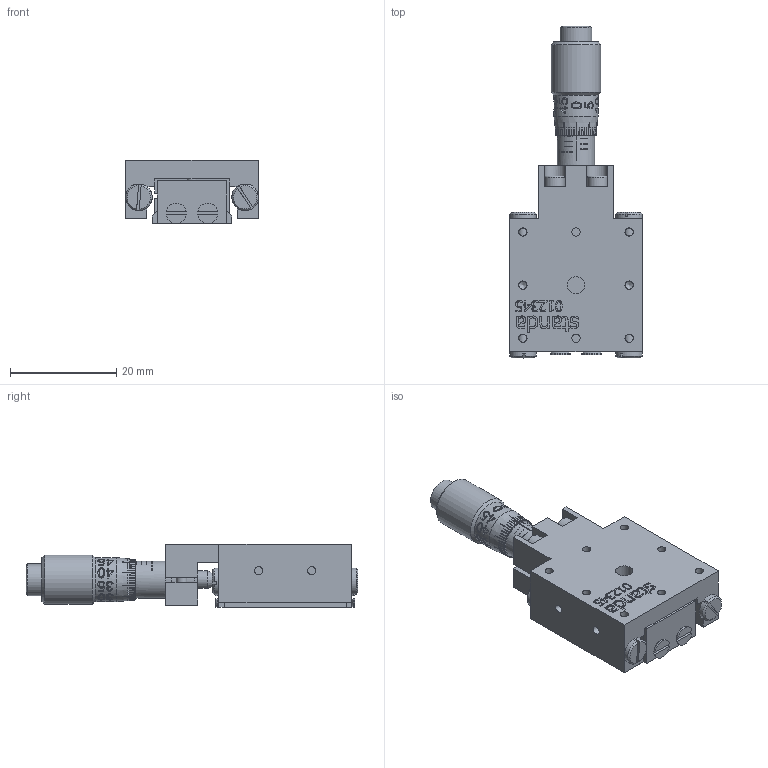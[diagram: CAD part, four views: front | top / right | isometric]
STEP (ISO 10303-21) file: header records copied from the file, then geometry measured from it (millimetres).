
FILE_DESCRIPTION(/* description */ (''),/* implementation_level */ '2;1');
FILE_NAME(/* name */ 'C:\Users\dsgn39\Desktop\Internetui\7T128-9S35-5BL\7T128-9S35-5BL.stp',/* time_stamp */ '2018-02-23T09:44:20+02:00',/* author */ ('dsgn39'),/* organization */ (''),/* preprocessor_version */ 'ST-DEVELOPER v15.2',/* originating_system */ 'Autodesk Inventor 2014',/* authorisation */ '');
FILE_SCHEMA (('AUTOMOTIVE_DESIGN { 1 0 10303 214 3 1 1 }'));
Products named in the file (2): Part6; Assembly3
Bounding box: 25 x 62.51 x 12 mm (x, y, z)
Surface area: 6372.6 mm2
Topology: 8 solids, 10 shells, 999 faces, 2736 edges, 1815 vertices
Faces by surface type: plane 490, bspline 303, cylinder 158, cone 39, torus 7, sphere 2
Full cylindrical faces by diameter (mm): 1.5 x6, 1.567 x15, 2 x11, 2.1 x1, 2.2 x7, 3.242 x2, 3.3 x1, 3.8 x4, 4 x1, 5 x4, 5.8 x1, 6 x1, 7 x1, 8.3 x1, 9.3 x1
Entity records: 55736 total; most frequent: CARTESIAN_POINT 33426, ORIENTED_EDGE 5182, DIRECTION 3452, EDGE_CURVE 2590, VERTEX_POINT 1760, LINE 1292, VECTOR 1292, EDGE_LOOP 1184
